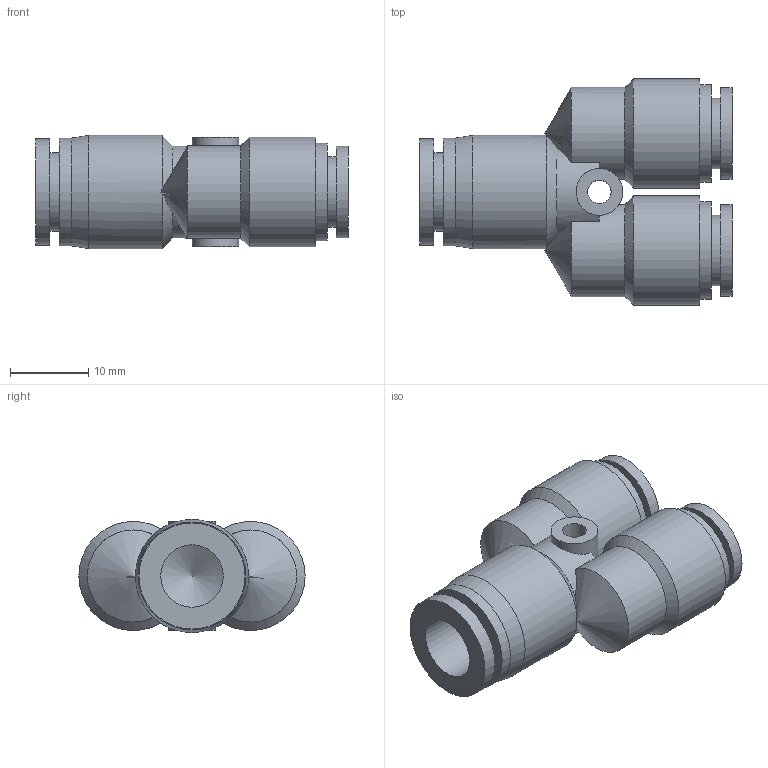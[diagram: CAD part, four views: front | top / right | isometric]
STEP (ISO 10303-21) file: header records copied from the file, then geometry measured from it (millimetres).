
FILE_DESCRIPTION((''),'2;1');
FILE_NAME('S:\UTecnico\ArchivioUT\Speciali Clienti\Speciali KONFIT\Plastica\RP\RP 73\RP730806.stp','2012-05-21T16:26:40',('UT5'),(''),'Autodesk Inventor 2012','Autodesk Inventor 2012','');
FILE_SCHEMA(('AUTOMOTIVE_DESIGN { 1 0 10303 214 1 1 1 1 }'));
Length unit declared in the file: millimetre
Products named in the file (1): RP730806
Bounding box: 40 x 29 x 14.5 mm (x, y, z)
Volume: 6511.4 mm3; surface area: 4893.8 mm2
Topology: 1 solids, 1 shells, 48 faces, 111 edges, 72 vertices
Faces by surface type: cylinder 21, plane 17, cone 10
Full cylindrical faces by diameter (mm): 3 x1, 6 x3, 8 x1, 9 x2, 10 x1, 11.7 x2, 11.8 x2, 12.5 x2, 13.6 x1, 13.8 x1, 14 x2, 14.5 x1
Entity records: 1320 total; most frequent: CARTESIAN_POINT 326, DIRECTION 204, ORIENTED_EDGE 142, AXIS2_PLACEMENT_3D 98, EDGE_LOOP 84, EDGE_CURVE 71, VERTEX_POINT 59, CIRCLE 49
